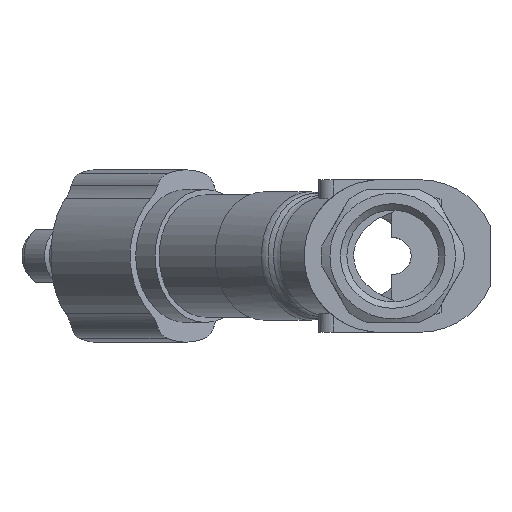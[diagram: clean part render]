
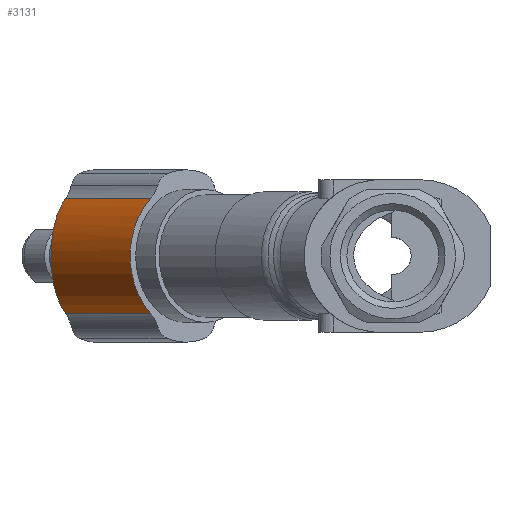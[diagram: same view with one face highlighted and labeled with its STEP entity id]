
A CAD part, left-side view. The second image highlights one B-rep face of the part: STEP entity #3131.
In plain terms, the highlighted cylindrical face has radius 15 mm (diameter 30 mm), a partial arc.
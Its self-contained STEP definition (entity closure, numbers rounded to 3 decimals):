
#294=LINE('',#5438,#529);
#295=LINE('',#5440,#530);
#529=VECTOR('',#4199,1000.);
#530=VECTOR('',#4202,1000.);
#623=B_SPLINE_CURVE_WITH_KNOTS('',3,(#4787,#4788,#4789,#4790,#4791,#4792,
#4793,#4794,#4795,#4796),.UNSPECIFIED.,.F.,.F.,(4,1,1,1,1,1,1,4),(0.,
0.003,0.007,0.01,0.013,
0.017,0.02,0.027),.UNSPECIFIED.);
#1276=ORIENTED_EDGE('',*,*,#1938,.T.);
#1277=ORIENTED_EDGE('',*,*,#1689,.T.);
#1278=ORIENTED_EDGE('',*,*,#1937,.F.);
#1279=ORIENTED_EDGE('',*,*,#1683,.F.);
#1683=EDGE_CURVE('',#2123,#2124,#623,.T.);
#1689=EDGE_CURVE('',#2129,#2130,#2395,.T.);
#1937=EDGE_CURVE('',#2124,#2130,#294,.T.);
#1938=EDGE_CURVE('',#2123,#2129,#295,.T.);
#2123=VERTEX_POINT('',#4786);
#2124=VERTEX_POINT('',#4797);
#2129=VERTEX_POINT('',#4826);
#2130=VERTEX_POINT('',#4827);
#2395=CIRCLE('',#3280,15.);
#2629=EDGE_LOOP('',(#1276,#1277,#1278,#1279));
#2855=FACE_BOUND('',#2629,.T.);
#3002=CYLINDRICAL_SURFACE('',#3454,15.);
#3131=ADVANCED_FACE('',(#2855),#3002,.T.);
#3280=AXIS2_PLACEMENT_3D('',#4825,#3721,#3722);
#3454=AXIS2_PLACEMENT_3D('',#5439,#4200,#4201);
#3721=DIRECTION('',(0.755,0.656,0.));
#3722=DIRECTION('',(-0.656,0.755,0.));
#4199=DIRECTION('',(-0.755,-0.656,0.));
#4200=DIRECTION('',(-0.755,-0.656,0.));
#4201=DIRECTION('',(0.656,-0.755,0.));
#4202=DIRECTION('',(-0.755,-0.656,0.));
#4786=CARTESIAN_POINT('',(82.478,66.4,-11.648));
#4787=CARTESIAN_POINT('',(82.478,66.4,-11.648));
#4788=CARTESIAN_POINT('',(81.748,66.91,-10.947));
#4789=CARTESIAN_POINT('',(80.402,67.779,-9.387));
#4790=CARTESIAN_POINT('',(78.761,68.712,-6.544));
#4791=CARTESIAN_POINT('',(77.704,69.257,-3.388));
#4792=CARTESIAN_POINT('',(77.326,69.443,-0.021));
#4793=CARTESIAN_POINT('',(77.696,69.262,3.359));
#4794=CARTESIAN_POINT('',(79.111,68.531,7.592));
#4795=CARTESIAN_POINT('',(81.018,67.421,10.245));
#4796=CARTESIAN_POINT('',(82.478,66.4,11.648));
#4797=CARTESIAN_POINT('',(82.478,66.4,11.648));
#4825=CARTESIAN_POINT('',(68.802,41.988,0.));
#4826=CARTESIAN_POINT('',(62.601,49.121,-11.648));
#4827=CARTESIAN_POINT('',(62.601,49.121,11.648));
#5438=CARTESIAN_POINT('',(83.733,67.491,11.648));
#5439=CARTESIAN_POINT('',(89.934,60.358,0.));
#5440=CARTESIAN_POINT('',(83.733,67.491,-11.648));
